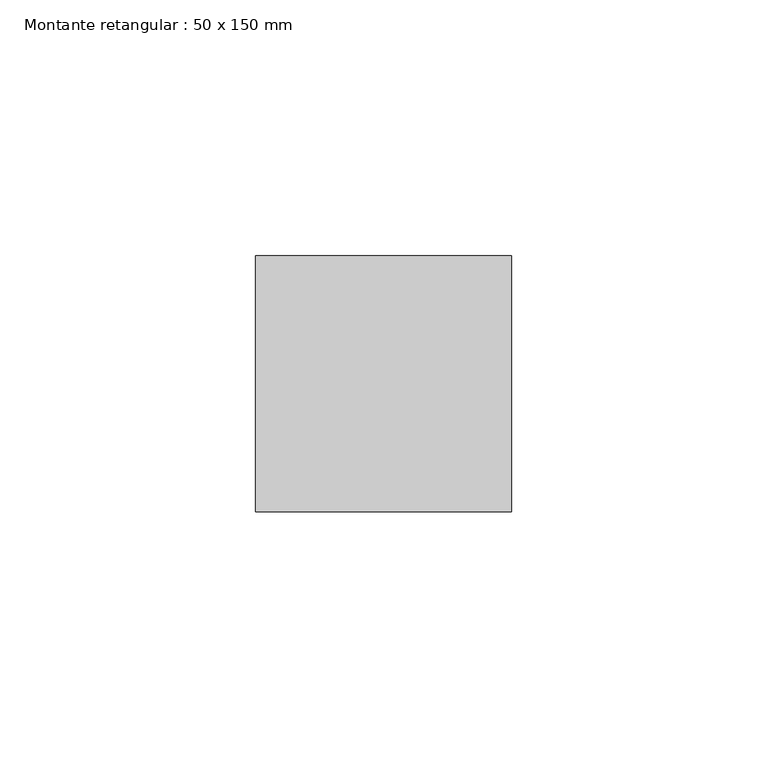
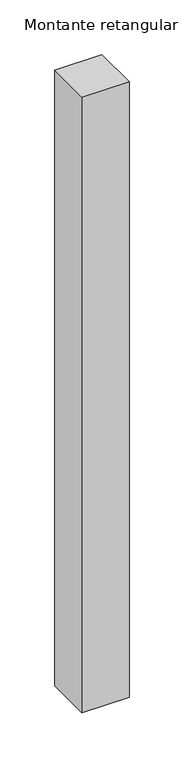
"""IFC4 building model written with IfcOpenShell, lengths in millimetres: member geometry, Montante retangular : 50 x 150 mm."""

from ifc_helpers import new_model, si_unit, frame, origin, place, context, project, spatial, polyline, outline, extrude, source, transform, mapped, element, save


def montante_retangular_50_x_150_mm_cd8b372d(model_context):
    return source(origin(), model_context, "Body", "SweptSolid", [
        extrude(outline(polyline([(0.0, 25.0), (0.0, -25.0), (-50.0, -25.0), (-50.0, 25.0), (0.0, 25.0)])), frame((0.0, 0.0, -689.3995422), z_axis=(0.0, 0.0, 1.0), x_axis=(1.0, 0.0, 0.0)), (0.0, 0.0, 1.0), 689.3995422),
    ])


if __name__ == "__main__":
    model = new_model("IFC4")
    model_context = context("Model", 3, world=origin())
    ifc_project = project(units=[si_unit("LENGTHUNIT", "METRE", prefix="MILLI")], contexts=[model_context])
    site = spatial("IfcSite", under=ifc_project)
    building = spatial("IfcBuilding", under=site)
    placement = place(None, origin())
    montante_retangular_50_x_150_mm_shape = montante_retangular_50_x_150_mm_cd8b372d(model_context)
    element("IfcMember", 1, ObjectType="Montante retangular : 50 x 150 mm", at=placement, inside=building, context=model_context, shape_type="MappedRepresentation", body=[
        mapped(montante_retangular_50_x_150_mm_shape, transform((0.0, 0.0, 0.0), x_axis=(1.0, 0.0, 0.0), y_axis=(0.0, 1.0, 0.0), z_axis=(0.0, 0.0, 1.0))),
    ])
    save(model, "model.ifc")
